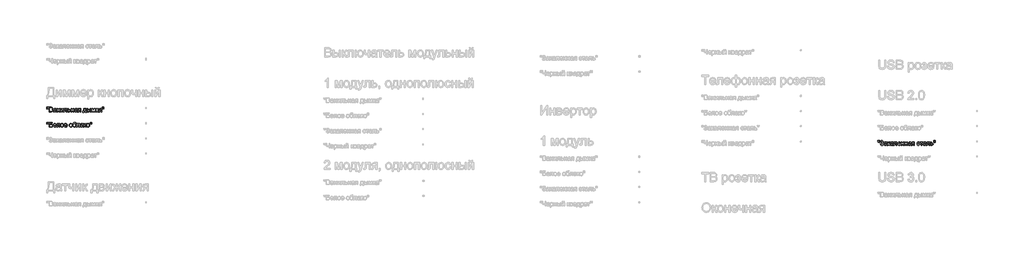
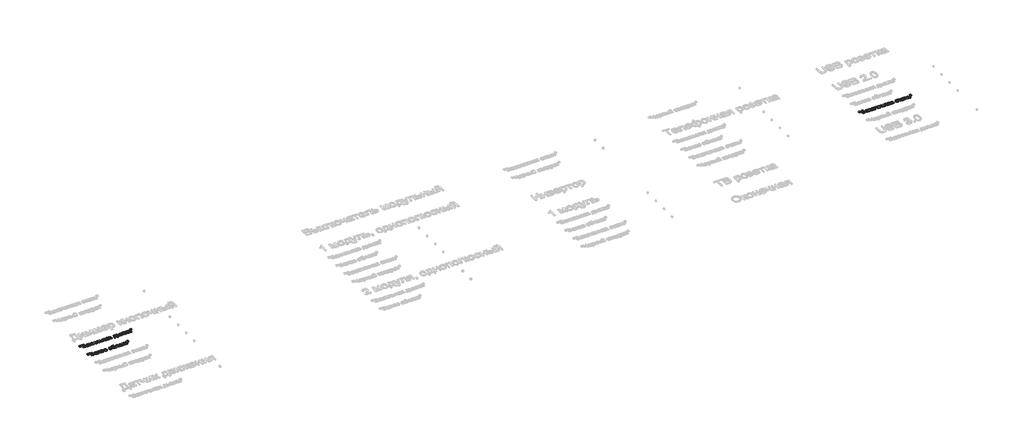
# One storey, part 33 of 168: 3 proxies.
"""IFC4 building model written with IfcOpenShell, lengths in millimetres."""

from ifc_helpers import new_model, si_unit, origin, origin_with_axes, place, context, project, spatial, polyline, outline, extrude, element, save

model = new_model("IFC4")

# Units and contexts
model_context = context("Model", 3, world=origin())
ifc_project = project(units=[si_unit("LENGTHUNIT", "METRE", prefix="MILLI")], contexts=[model_context])

# Site, building, storey
site = spatial("IfcSite", under=ifc_project)
building = spatial("IfcBuilding", under=site)
storey = spatial("IfcBuildingStorey", under=building, Name="Этаж 01", Elevation=0.0)

# Proxies
placement = place(None, origin())
element("IfcBuildingElementProxy", 1, Name="150", ObjectType="150", at=placement, inside=storey, context=model_context, shape_type="SweptSolid", body=[
    extrude(outline(polyline([(32880.1485789, -47369.2611657), (32875.550054, -47340.1616998), (32875.550054, -47315.108936), (32894.3856121, -47315.108936), (32894.3856121, -47340.1616998), (32890.2653338, -47369.2611657), (32880.1485789, -47369.2611657)])), origin_with_axes(), (0.0, 0.0, 1.0), 20.0),
    extrude(outline(polyline([(32917.7093306, -47369.2611657), (32913.2211703, -47340.1616998), (32913.2211703, -47315.108936), (32932.0567284, -47315.108936), (32932.0567284, -47340.1616998), (32927.6421445, -47369.2611657), (32917.7093306, -47369.2611657)])), origin_with_axes(), (0.0, 0.0, 1.0), 20.0),
    extrude(outline(polyline([(32957.9556209, -47465.7934012), (32957.9556209, -47315.108936), (33015.4555767, -47315.108936), (33043.6169435, -47319.541914), (33053.0807078, -47325.16591), (33060.2452096, -47333.1719419), (33066.2600803, -47352.4489585), (33061.2017028, -47370.0521119), (33045.9162059, -47383.3878343), (33056.5893823, -47388.9612465), (33064.4758526, -47397.4409265), (33069.3456905, -47408.2658542), (33070.9689698, -47420.8750096), (33066.5359918, -47441.1269134), (33055.5547142, -47455.5478876), (33039.1655713, -47463.1998331), (33015.0141183, -47465.7934012), (32957.9556209, -47465.7934012)]), holes=[polyline([(32976.791179, -47376.3245), (33011.1881456, -47376.3245), (33031.2745025, -47374.7058192), (33043.3594261, -47367.7344554), (33047.4245221, -47355.4655908), (33043.6353376, -47343.1783322), (33032.7828187, -47335.9126628), (33008.5761834, -47333.9444941), (32976.791179, -47333.9444941), (32976.791179, -47376.3245)]), polyline([(32976.791179, -47446.957843), (33015.4187885, -47446.957843), (33029.3983043, -47446.222079), (33041.2257105, -47442.1201948), (33049.061597, -47433.7508794), (33052.1334117, -47421.0589506), (33048.5281681, -47406.4172472), (33036.8479148, -47397.6800498), (33013.5793786, -47395.1600581), (32976.791179, -47395.1600581), (32976.791179, -47446.957843)])]), origin_with_axes(), (0.0, 0.0, 1.0), 20.0),
    extrude(outline(polyline([(33165.1467606, -47451.6667326), (33146.8814195, -47464.4322378), (33126.7030921, -47468.147846), (33110.9623412, -47465.9129628), (33099.3510657, -47459.2083135), (33092.1911624, -47449.0271793), (33089.804528, -47436.3628416), (33093.4097715, -47421.4636208), (33102.8827329, -47410.6478901), (33116.0713024, -47404.4674726), (33132.3684748, -47401.6347812), (33165.036396, -47395.1600581), (33165.1467606, -47390.9662034), (33163.8499765, -47382.5600998), (33159.9596244, -47377.060264), (33151.2592153, -47372.9767738), (33139.1375035, -47371.6156104), (33120.0812162, -47375.2392481), (33110.9945309, -47388.0967238), (33092.1589727, -47385.742279), (33100.3075589, -47367.3481793), (33116.7150959, -47356.5692368), (33141.5655247, -47352.7800523), (33164.3926025, -47356.1277784), (33177.2868664, -47364.533882), (33183.0626137, -47377.3177814), (33183.9823187, -47393.7988947), (33183.9823187, -47417.2329778), (33184.9388119, -47449.9560813), (33188.6912083, -47465.7934012), (33169.8556501, -47465.7934012), (33165.1467606, -47451.6667326)]), holes=[polyline([(33165.1467606, -47413.9956163), (33134.7597078, -47419.7713636), (33118.5545059, -47422.8247842), (33111.2152601, -47427.7911911), (33108.6400861, -47435.0384664), (33114.2502865, -47445.2287977), (33130.7130058, -47449.3122878), (33149.7692932, -47444.8057334), (33162.0565518, -47433.8980322), (33165.036396, -47419.3299052), (33165.1467606, -47413.9956163)])]), origin_with_axes(), (0.0, 0.0, 1.0), 20.0),
    extrude(outline(polyline([(33209.8812112, -47355.134497), (33228.7167693, -47355.134497), (33228.7167693, -47397.5145029), (33278.1601095, -47397.5145029), (33278.1601095, -47355.134497), (33296.9956676, -47355.134497), (33296.9956676, -47465.7934012), (33278.1601095, -47465.7934012), (33278.1601095, -47416.350061), (33228.7167693, -47416.350061), (33228.7167693, -47465.7934012), (33209.8812112, -47465.7934012), (33209.8812112, -47355.134497)])), origin_with_axes(), (0.0, 0.0, 1.0), 20.0),
    extrude(outline(polyline([(33325.2490049, -47355.134497), (33344.084563, -47355.134497), (33344.084563, -47439.5266267), (33390.364118, -47355.134497), (33414.7179061, -47355.134497), (33414.7179061, -47465.7934012), (33395.8823479, -47465.7934012), (33395.8823479, -47381.9163063), (33349.8970985, -47465.7934012), (33325.2490049, -47465.7934012), (33325.2490049, -47355.134497)])), origin_with_axes(), (0.0, 0.0, 1.0), 20.0),
    extrude(outline(polyline([(33452.3890224, -47355.134497), (33537.1490341, -47355.134497), (33537.1490341, -47465.6830366), (33518.3134759, -47465.6830366), (33518.3134759, -47373.9700552), (33471.2245806, -47373.9700552), (33471.2245806, -47426.7611215), (33469.9553877, -47451.1149096), (33462.9840239, -47461.3972113), (33446.5029105, -47465.7934012), (33431.1990195, -47464.836908), (33431.1990195, -47446.957843), (33439.6235172, -47446.957843), (33448.1399854, -47445.7990148), (33451.5428938, -47442.1201948), (33452.3890224, -47425.6942637), (33452.3890224, -47355.134497)])), origin_with_axes(), (0.0, 0.0, 1.0), 20.0),
    extrude(outline(polyline([(33565.4023713, -47355.134497), (33584.2379295, -47355.134497), (33584.2379295, -47395.1600581), (33605.9429672, -47395.1600581), (33624.7601312, -47397.5191014), (33638.6844648, -47404.5962313), (33647.2929034, -47415.8212307), (33650.162383, -47430.6238825), (33647.7205663, -47444.102159), (33640.395116, -47455.4743112), (33627.6985887, -47463.2136287), (33609.1435405, -47465.7934012), (33565.4023713, -47465.7934012), (33565.4023713, -47355.134497)]), holes=[polyline([(33584.2379295, -47446.957843), (33601.8226888, -47446.957843), (33624.539402, -47443.0031116), (33629.6299692, -47437.9401356), (33631.3268249, -47430.6606707), (33626.3052356, -47419.0723878), (33618.2348244, -47415.2648092), (33604.066769, -47413.9956163), (33584.2379295, -47413.9956163), (33584.2379295, -47446.957843)])]), origin_with_axes(), (0.0, 0.0, 1.0), 20.0),
    extrude(outline(polyline([(33673.7068307, -47355.134497), (33692.5423889, -47355.134497), (33692.5423889, -47397.5145029), (33741.985729, -47397.5145029), (33741.985729, -47355.134497), (33760.8212872, -47355.134497), (33760.8212872, -47465.7934012), (33741.985729, -47465.7934012), (33741.985729, -47416.350061), (33692.5423889, -47416.350061), (33692.5423889, -47465.7934012), (33673.7068307, -47465.7934012), (33673.7068307, -47355.134497)])), origin_with_axes(), (0.0, 0.0, 1.0), 20.0),
    extrude(outline(polyline([(33859.7079675, -47451.6667326), (33841.4426264, -47464.4322378), (33821.264299, -47468.147846), (33805.5235481, -47465.9129628), (33793.9122726, -47459.2083135), (33786.7523693, -47449.0271793), (33784.3657349, -47436.3628416), (33787.9709784, -47421.4636208), (33797.4439398, -47410.6478901), (33810.6325093, -47404.4674726), (33826.9296817, -47401.6347812), (33859.5976029, -47395.1600581), (33859.7079675, -47390.9662034), (33858.4111834, -47382.5600998), (33854.5208313, -47377.060264), (33845.8204221, -47372.9767738), (33833.6987104, -47371.6156104), (33814.6424231, -47375.2392481), (33805.5557378, -47388.0967238), (33786.7201796, -47385.742279), (33794.8687658, -47367.3481793), (33811.2763028, -47356.5692368), (33836.1267316, -47352.7800523), (33858.9538094, -47356.1277784), (33871.8480733, -47364.533882), (33877.6238206, -47377.3177814), (33878.5435256, -47393.7988947), (33878.5435256, -47417.2329778), (33879.5000188, -47449.9560813), (33883.2524152, -47465.7934012), (33864.416857, -47465.7934012), (33859.7079675, -47451.6667326)]), holes=[polyline([(33859.7079675, -47413.9956163), (33829.3209147, -47419.7713636), (33813.1157128, -47422.8247842), (33805.776467, -47427.7911911), (33803.201293, -47435.0384664), (33808.8114934, -47445.2287977), (33825.2742127, -47449.3122878), (33844.3305001, -47444.8057334), (33856.6177587, -47433.8980322), (33859.5976029, -47419.3299052), (33859.7079675, -47413.9956163)])]), origin_with_axes(), (0.0, 0.0, 1.0), 20.0),
    extrude(outline(polyline([(33989.2024298, -47355.134497), (33989.2024298, -47465.7934012), (33970.3668716, -47465.7934012), (33970.3668716, -47423.4133953), (33960.1029639, -47423.4133953), (33946.1234481, -47425.8046283), (33932.9900609, -47441.8810715), (33917.9804755, -47465.7934012), (33896.2018614, -47465.7934012), (33915.1109959, -47435.5535012), (33923.4619172, -47424.7009823), (33931.1506509, -47419.8817282), (33918.2747811, -47415.9361938), (33909.224884, -47408.4405981), (33903.872201, -47398.4709961), (33902.0879733, -47387.1034424), (33904.5251915, -47374.2091785), (33911.8368462, -47364.0004531), (33923.7654199, -47357.3509861), (33940.0533952, -47355.134497), (33989.2024298, -47355.134497)]), holes=[polyline([(33970.3668716, -47373.9700552), (33945.5348369, -47373.9700552), (33932.7095509, -47375.0599056), (33925.4300859, -47378.3294568), (33920.9235315, -47388.5381822), (33922.583599, -47395.7164796), (33927.5638015, -47400.6966821), (33951.0898551, -47404.5778372), (33970.3668716, -47404.5778372), (33970.3668716, -47373.9700552)])]), origin_with_axes(), (0.0, 0.0, 1.0), 20.0),
    extrude(outline(polyline([(34092.7979996, -47355.134497), (34163.4313427, -47355.134497), (34163.4313427, -47446.957843), (34177.5580113, -47446.957843), (34177.5580113, -47496.4011832), (34158.7224531, -47496.4011832), (34158.7224531, -47465.7934012), (34081.0257758, -47465.7934012), (34081.0257758, -47496.4011832), (34062.1902176, -47496.4011832), (34062.1902176, -47446.957843), (34073.9624415, -47446.957843), (34082.5202964, -47431.4930037), (34088.5121744, -47411.0341662), (34092.7979996, -47355.134497)]), holes=[polyline([(34109.279113, -47373.9700552), (34104.864529, -47416.8834899), (34095.1524444, -47446.957843), (34144.5957845, -47446.957843), (34144.5957845, -47373.9700552), (34109.279113, -47373.9700552)])]), origin_with_axes(), (0.0, 0.0, 1.0), 20.0),
    extrude(outline(polyline([(34302.3435841, -47355.134497), (34321.1791422, -47355.134497), (34321.1791422, -47465.7934012), (34302.3435841, -47465.7934012), (34302.3435841, -47355.134497)])), origin_with_axes(), (0.0, 0.0, 1.0), 20.0),
    extrude(outline(polyline([(34198.7480142, -47355.134497), (34217.5835724, -47355.134497), (34217.5835724, -47395.1600581), (34240.8705027, -47395.1600581), (34260.9982463, -47397.5191014), (34275.9112627, -47404.5962313), (34285.1405023, -47415.8212307), (34288.2169154, -47430.6238825), (34285.637143, -47444.102159), (34277.8978255, -47455.4743112), (34264.4931253, -47463.2136287), (34244.9172046, -47465.7934012), (34198.7480142, -47465.7934012), (34198.7480142, -47355.134497)]), holes=[polyline([(34217.5835724, -47446.957843), (34236.9341653, -47446.957843), (34261.9133528, -47443.0031116), (34267.5143562, -47437.9401356), (34269.3813573, -47430.6606707), (34263.8447333, -47419.0723878), (34254.9649816, -47415.2648092), (34239.3989747, -47413.9956163), (34217.5835724, -47413.9956163), (34217.5835724, -47446.957843)])]), origin_with_axes(), (0.0, 0.0, 1.0), 20.0),
    extrude(outline(polyline([(34349.4324794, -47355.134497), (34381.8428832, -47355.134497), (34406.8220707, -47443.7204815), (34433.7510327, -47355.134497), (34464.8002731, -47355.134497), (34464.8002731, -47465.7934012), (34445.964715, -47465.7934012), (34445.964715, -47376.692382), (34418.8886001, -47465.7934012), (34394.1669301, -47465.7934012), (34368.2680376, -47372.4249508), (34368.2680376, -47465.7934012), (34349.4324794, -47465.7934012), (34349.4324794, -47355.134497)])), origin_with_axes(), (0.0, 0.0, 1.0), 20.0),
    extrude(outline(polyline([(34493.0536104, -47355.134497), (34511.8891685, -47355.134497), (34511.8891685, -47402.2233924), (34524.5075209, -47398.8388781), (34534.845005, -47379.1204031), (34543.4350496, -47362.1058608), (34551.0134187, -47356.5692368), (34564.7905994, -47355.134497), (34568.395843, -47355.134497), (34568.395843, -47374.0804198), (34563.3190714, -47373.9700552), (34554.1220216, -47375.956618), (34547.6472984, -47388.3542412), (34540.0505352, -47401.7635399), (34529.4003515, -47408.3302335), (34541.2829399, -47415.6602823), (34552.9447992, -47431.102129), (34573.1047325, -47465.7934012), (34551.6940004, -47465.7934012), (34531.9387372, -47431.837893), (34522.0059234, -47417.4721011), (34511.8891685, -47413.9956163), (34511.8891685, -47465.7934012), (34493.0536104, -47465.7934012), (34493.0536104, -47355.134497)])), origin_with_axes(), (0.0, 0.0, 1.0), 20.0),
    extrude(outline(polyline([(34655.5102994, -47451.6667326), (34637.2449584, -47464.4322378), (34617.0666309, -47468.147846), (34601.3258801, -47465.9129628), (34589.7146046, -47459.2083135), (34582.5547013, -47449.0271793), (34580.1680668, -47436.3628416), (34583.7733104, -47421.4636208), (34593.2462717, -47410.6478901), (34606.4348413, -47404.4674726), (34622.7320137, -47401.6347812), (34655.3999348, -47395.1600581), (34655.5102994, -47390.9662034), (34654.2135154, -47382.5600998), (34650.3231633, -47377.060264), (34641.6227541, -47372.9767738), (34629.5010424, -47371.6156104), (34610.444755, -47375.2392481), (34601.3580697, -47388.0967238), (34582.5225116, -47385.742279), (34590.6710978, -47367.3481793), (34607.0786348, -47356.5692368), (34631.9290635, -47352.7800523), (34654.7561413, -47356.1277784), (34667.6504053, -47364.533882), (34673.4261526, -47377.3177814), (34674.3458576, -47393.7988947), (34674.3458576, -47417.2329778), (34675.3023508, -47449.9560813), (34679.0547471, -47465.7934012), (34660.219189, -47465.7934012), (34655.5102994, -47451.6667326)]), holes=[polyline([(34655.5102994, -47413.9956163), (34625.1232466, -47419.7713636), (34608.9180447, -47422.8247842), (34601.5787989, -47427.7911911), (34599.003625, -47435.0384664), (34604.6138254, -47445.2287977), (34621.0765447, -47449.3122878), (34640.132832, -47444.8057334), (34652.4200907, -47433.8980322), (34655.3999348, -47419.3299052), (34655.5102994, -47413.9956163)])]), origin_with_axes(), (0.0, 0.0, 1.0), 20.0),
    extrude(outline(polyline([(34700.1343854, -47369.2611657), (34695.5358605, -47340.1616998), (34695.5358605, -47315.108936), (34714.3714187, -47315.108936), (34714.3714187, -47340.1616998), (34710.2511403, -47369.2611657), (34700.1343854, -47369.2611657)])), origin_with_axes(), (0.0, 0.0, 1.0), 20.0),
    extrude(outline(polyline([(34737.6951372, -47369.2611657), (34733.2069768, -47340.1616998), (34733.2069768, -47315.108936), (34752.042535, -47315.108936), (34752.042535, -47340.1616998), (34747.627951, -47369.2611657), (34737.6951372, -47369.2611657)])), origin_with_axes(), (0.0, 0.0, 1.0), 20.0),
])
element("IfcBuildingElementProxy", 2, Name="150", ObjectType="150", at=placement, inside=storey, context=model_context, shape_type="SweptSolid", body=[
    extrude(outline(polyline([(32880.1485789, -47869.2611657), (32875.550054, -47840.1616998), (32875.550054, -47815.108936), (32894.3856121, -47815.108936), (32894.3856121, -47840.1616998), (32890.2653338, -47869.2611657), (32880.1485789, -47869.2611657)])), origin_with_axes(), (0.0, 0.0, 1.0), 20.0),
    extrude(outline(polyline([(32917.7093306, -47869.2611657), (32913.2211703, -47840.1616998), (32913.2211703, -47815.108936), (32932.0567284, -47815.108936), (32932.0567284, -47840.1616998), (32927.6421445, -47869.2611657), (32917.7093306, -47869.2611657)])), origin_with_axes(), (0.0, 0.0, 1.0), 20.0),
    extrude(outline(polyline([(32957.9556209, -47815.108936), (33052.1334117, -47815.108936), (33052.1334117, -47833.9444941), (32976.791179, -47833.9444941), (32976.791179, -47878.6789447), (33012.0710624, -47878.6789447), (33043.157091, -47882.5049175), (33053.5589544, -47888.0323445), (33061.6615553, -47896.9626799), (33066.8762826, -47908.4589922), (33068.614525, -47921.68435), (33063.6665122, -47943.1502644), (33048.8960501, -47959.4658309), (33035.6247071, -47964.2115086), (33015.4555767, -47965.7934012), (32957.9556209, -47965.7934012), (32957.9556209, -47815.108936)]), holes=[polyline([(32976.791179, -47946.957843), (33017.1478339, -47946.957843), (33031.4124583, -47945.4035416), (33041.6119866, -47940.7406373), (33047.7372218, -47932.9691302), (33049.7789669, -47922.0890202), (33045.1068655, -47907.3369522), (33032.102237, -47899.4642775), (33003.7201411, -47897.5145029), (32976.791179, -47897.5145029), (32976.791179, -47946.957843)])]), origin_with_axes(), (0.0, 0.0, 1.0), 20.0),
    extrude(outline(polyline([(33169.6349209, -47932.8311744), (33188.1025971, -47935.1856192), (33181.4485315, -47949.1007557), (33170.8305374, -47959.5026191), (33156.4877381, -47965.9865392), (33138.6592569, -47968.147846), (33116.5587461, -47964.4184422), (33099.5534008, -47953.2302311), (33088.710079, -47935.3097794), (33085.0956384, -47911.3836541), (33088.7468672, -47886.652787), (33099.7005536, -47868.1575197), (33116.4759726, -47856.6244191), (33137.5923991, -47852.7800523), (33158.0512366, -47856.6152221), (33174.3989927, -47868.1207315), (33185.1181544, -47886.5792106), (33188.6912083, -47911.2732895), (33188.5808437, -47916.350061), (33103.9311966, -47916.350061), (33107.1915508, -47930.4491385), (33114.7653213, -47940.8142137), (33125.6960151, -47947.1877693), (33139.0271389, -47949.3122878), (33157.4948151, -47945.3759505), (33169.6349209, -47932.8311744)]), holes=[polyline([(33103.9311966, -47897.5145029), (33169.8556501, -47897.5145029), (33167.3080673, -47887.5632949), (33162.3140692, -47880.4447783), (33151.3327917, -47873.8229024), (33137.5188227, -47871.6156104), (33124.8222954, -47873.3768455), (33114.3238629, -47878.6605506), (33107.0260039, -47886.8965088), (33103.9311966, -47897.5145029)])]), origin_with_axes(), (0.0, 0.0, 1.0), 20.0),
    extrude(outline(polyline([(33216.9445455, -47855.134497), (33301.7045572, -47855.134497), (33301.7045572, -47965.6830366), (33282.868999, -47965.6830366), (33282.868999, -47873.9700552), (33235.7801036, -47873.9700552), (33235.7801036, -47926.7611215), (33234.5109108, -47951.1149096), (33227.539547, -47961.3972113), (33211.0584336, -47965.7934012), (33195.7545426, -47964.836908), (33195.7545426, -47946.957843), (33204.1790403, -47946.957843), (33212.6955084, -47945.7990148), (33216.0984169, -47942.1201948), (33216.9445455, -47925.6942637), (33216.9445455, -47855.134497)])), origin_with_axes(), (0.0, 0.0, 1.0), 20.0),
    extrude(outline(polyline([(33325.2490049, -47910.4639491), (33329.323298, -47883.7833074), (33341.5461773, -47865.0305227), (33356.6477332, -47855.8426699), (33374.7291332, -47852.7800523), (33394.516586, -47856.509456), (33410.3217163, -47867.6976672), (33420.6821929, -47885.461769), (33424.1356852, -47908.9188447), (33422.6089749, -47927.9475409), (33418.0288441, -47942.4328945), (33410.5286499, -47953.2808148), (33400.2417496, -47961.3972113), (33388.0234688, -47966.4601873), (33374.7291332, -47968.147846), (33354.7025571, -47964.4322378), (33338.915821, -47953.2854134), (33328.6657089, -47935.148831), (33325.2490049, -47910.4639491)]), holes=[polyline([(33344.084563, -47910.4271609), (33346.2642638, -47927.4738929), (33352.8033663, -47939.6185972), (33362.6442097, -47946.8888652), (33374.7291332, -47949.3122878), (33386.7588745, -47946.8750696), (33396.5813237, -47939.5634149), (33403.1204262, -47927.2577622), (33405.300127, -47909.8385497), (33403.1066306, -47893.2884585), (33396.5261414, -47881.309301), (33386.6898966, -47874.0390331), (33374.7291332, -47871.6156104), (33362.6442097, -47874.029836), (33352.8033663, -47881.2725128), (33346.2642638, -47893.389626), (33344.084563, -47910.4271609)])]), origin_with_axes(), (0.0, 0.0, 1.0), 20.0),
    extrude(outline(polyline([(33522.8016363, -47932.8311744), (33541.2693124, -47935.1856192), (33534.6152469, -47949.1007557), (33523.9972528, -47959.5026191), (33509.6544535, -47965.9865392), (33491.8259723, -47968.147846), (33469.7254614, -47964.4184422), (33452.7201162, -47953.2302311), (33441.8767944, -47935.3097794), (33438.2623538, -47911.3836541), (33441.9135826, -47886.652787), (33452.867269, -47868.1575197), (33469.642688, -47856.6244191), (33490.7591145, -47852.7800523), (33511.217952, -47856.6152221), (33527.5657081, -47868.1207315), (33538.2848698, -47886.5792106), (33541.8579236, -47911.2732895), (33541.747559, -47916.350061), (33457.0979119, -47916.350061), (33460.3582661, -47930.4491385), (33467.9320367, -47940.8142137), (33478.8627305, -47947.1877693), (33492.1938543, -47949.3122878), (33510.6615304, -47945.3759505), (33522.8016363, -47932.8311744)]), holes=[polyline([(33457.0979119, -47897.5145029), (33523.0223655, -47897.5145029), (33520.4747827, -47887.5632949), (33515.4807846, -47880.4447783), (33504.499507, -47873.8229024), (33490.6855381, -47871.6156104), (33477.9890107, -47873.3768455), (33467.4905783, -47878.6605506), (33460.1927192, -47886.8965088), (33457.0979119, -47897.5145029)])]), origin_with_axes(), (0.0, 0.0, 1.0), 20.0),
    extrude(outline(polyline([(33614.8457115, -47910.4639491), (33618.9200046, -47883.7833074), (33631.1428839, -47865.0305227), (33646.2444398, -47855.8426699), (33664.3258398, -47852.7800523), (33684.1132926, -47856.509456), (33699.9184229, -47867.6976672), (33710.2788995, -47885.461769), (33713.7323918, -47908.9188447), (33712.2056815, -47927.9475409), (33707.6255507, -47942.4328945), (33700.1253565, -47953.2808148), (33689.8384562, -47961.3972113), (33677.6201754, -47966.4601873), (33664.3258398, -47968.147846), (33644.2992637, -47964.4322378), (33628.5125276, -47953.2854134), (33618.2624155, -47935.148831), (33614.8457115, -47910.4639491)]), holes=[polyline([(33633.6812696, -47910.4271609), (33635.8609704, -47927.4738929), (33642.4000729, -47939.6185972), (33652.2409163, -47946.8888652), (33664.3258398, -47949.3122878), (33676.3555811, -47946.8750696), (33686.1780303, -47939.5634149), (33692.7171328, -47927.2577622), (33694.8968336, -47909.8385497), (33692.7033372, -47893.2884585), (33686.122848, -47881.309301), (33676.2866032, -47874.0390331), (33664.3258398, -47871.6156104), (33652.2409163, -47874.029836), (33642.4000729, -47881.2725128), (33635.8609704, -47893.389626), (33633.6812696, -47910.4271609)])]), origin_with_axes(), (0.0, 0.0, 1.0), 20.0),
    extrude(outline(polyline([(33812.6190721, -47812.7544912), (33829.1001855, -47812.7544912), (33824.2441431, -47827.4513769), (33814.6424231, -47832.7672717), (33791.576222, -47833.9444941), (33760.5085875, -47838.2855017), (33753.3808738, -47843.9324903), (33748.5892108, -47852.1914411), (33744.560903, -47876.8027466), (33760.8764695, -47858.7765288), (33770.7954878, -47854.2791714), (33781.9009255, -47852.7800523), (33801.4998388, -47856.5922294), (33817.401538, -47868.028761), (33827.9413572, -47885.9676068), (33831.4546302, -47909.2867267), (33829.7117893, -47927.2669592), (33824.4832664, -47941.6971305), (33807.9469707, -47961.2500585), (33796.6529935, -47966.4233991), (33781.9009255, -47968.147846), (33764.9001788, -47965.9267584), (33752.1576662, -47959.2634958), (33742.7812738, -47949.1375439), (33735.8788879, -47936.5283885), (33731.6298508, -47917.541079), (33730.2135052, -47888.2806648), (33733.786559, -47852.1408573), (33744.5057207, -47830.1001273), (33762.6377045, -47818.8567338), (33788.449225, -47815.108936), (33809.4184987, -47814.6858717), (33812.6190721, -47812.7544912)]), holes=[polyline([(33812.6190721, -47908.6981155), (33810.577327, -47893.8770697), (33804.4520918, -47882.0082768), (33794.6112484, -47874.213777), (33781.4226789, -47871.6156104), (33767.6730893, -47874.3609298), (33757.473561, -47882.596888), (33751.1551877, -47895.422174), (33749.0490633, -47911.9354771), (33751.3759169, -47927.9429424), (33758.3564778, -47939.6921736), (33768.7491442, -47946.9072593), (33781.3123143, -47949.3122878), (33793.9398638, -47946.5301802), (33803.937057, -47938.1838575), (33810.4485683, -47925.2482068), (33812.6190721, -47908.6981155)])]), origin_with_axes(), (0.0, 0.0, 1.0), 20.0),
    extrude(outline(polyline([(33864.416857, -47855.134497), (33949.1768687, -47855.134497), (33949.1768687, -47965.6830366), (33930.3413105, -47965.6830366), (33930.3413105, -47873.9700552), (33883.2524152, -47873.9700552), (33883.2524152, -47926.7611215), (33881.9832223, -47951.1149096), (33875.0118585, -47961.3972113), (33858.5307451, -47965.7934012), (33843.2268541, -47964.836908), (33843.2268541, -47946.957843), (33851.6513518, -47946.957843), (33860.16782, -47945.7990148), (33863.5707284, -47942.1201948), (33864.416857, -47925.6942637), (33864.416857, -47855.134497)])), origin_with_axes(), (0.0, 0.0, 1.0), 20.0),
    extrude(outline(polyline([(34048.063549, -47951.6667326), (34029.7982079, -47964.4322378), (34009.6198805, -47968.147846), (33993.8791296, -47965.9129628), (33982.2678542, -47959.2083135), (33975.1079508, -47949.0271793), (33972.7213164, -47936.3628416), (33976.3265599, -47921.4636208), (33985.7995213, -47910.6478901), (33998.9880908, -47904.4674726), (34015.2852632, -47901.6347812), (34047.9531844, -47895.1600581), (34048.063549, -47890.9662034), (34046.766765, -47882.5600998), (34042.8764129, -47877.060264), (34034.1760037, -47872.9767738), (34022.0542919, -47871.6156104), (34002.9980046, -47875.2392481), (33993.9113193, -47888.0967238), (33975.0757612, -47885.742279), (33983.2243473, -47867.3481793), (33999.6318843, -47856.5692368), (34024.4823131, -47852.7800523), (34047.3093909, -47856.1277784), (34060.2036548, -47864.533882), (34065.9794022, -47877.3177814), (34066.8991071, -47893.7988947), (34066.8991071, -47917.2329778), (34067.8556003, -47949.9560813), (34071.6079967, -47965.7934012), (34052.7724385, -47965.7934012), (34048.063549, -47951.6667326)]), holes=[polyline([(34048.063549, -47913.9956163), (34017.6764962, -47919.7713636), (34001.4712943, -47922.8247842), (33994.1320485, -47927.7911911), (33991.5568745, -47935.0384664), (33997.167075, -47945.2287977), (34013.6297942, -47949.3122878), (34032.6860816, -47944.8057334), (34044.9733402, -47933.8980322), (34047.9531844, -47919.3299052), (34048.063549, -47913.9956163)])]), origin_with_axes(), (0.0, 0.0, 1.0), 20.0),
    extrude(outline(polyline([(34092.7979996, -47855.134497), (34111.6335578, -47855.134497), (34111.6335578, -47902.2233924), (34124.2519102, -47898.8388781), (34134.5893943, -47879.1204031), (34143.1794388, -47862.1058608), (34150.7578079, -47856.5692368), (34164.5349887, -47855.134497), (34168.1402322, -47855.134497), (34168.1402322, -47874.0804198), (34163.0634607, -47873.9700552), (34153.8664108, -47875.956618), (34147.3916877, -47888.3542412), (34139.7949245, -47901.7635399), (34129.1447407, -47908.3302335), (34141.0273292, -47915.6602823), (34152.6891884, -47931.102129), (34172.8491218, -47965.7934012), (34151.4383896, -47965.7934012), (34131.6831265, -47931.837893), (34121.7503126, -47917.4721011), (34111.6335578, -47913.9956163), (34111.6335578, -47965.7934012), (34092.7979996, -47965.7934012), (34092.7979996, -47855.134497)])), origin_with_axes(), (0.0, 0.0, 1.0), 20.0),
    extrude(outline(polyline([(34179.9124561, -47910.4639491), (34183.9867492, -47883.7833074), (34196.2096285, -47865.0305227), (34211.3111844, -47855.8426699), (34229.3925844, -47852.7800523), (34249.1800372, -47856.509456), (34264.9851674, -47867.6976672), (34275.3456441, -47885.461769), (34278.7991364, -47908.9188447), (34277.2724261, -47927.9475409), (34272.6922952, -47942.4328945), (34265.1921011, -47953.2808148), (34254.9052008, -47961.3972113), (34242.68692, -47966.4601873), (34229.3925844, -47968.147846), (34209.3660083, -47964.4322378), (34193.5792722, -47953.2854134), (34183.3291601, -47935.148831), (34179.9124561, -47910.4639491)]), holes=[polyline([(34198.7480142, -47910.4271609), (34200.927715, -47927.4738929), (34207.4668175, -47939.6185972), (34217.3076609, -47946.8888652), (34229.3925844, -47949.3122878), (34241.4223257, -47946.8750696), (34251.2447749, -47939.5634149), (34257.7838774, -47927.2577622), (34259.9635782, -47909.8385497), (34257.7700818, -47893.2884585), (34251.1895926, -47881.309301), (34241.3533478, -47874.0390331), (34229.3925844, -47871.6156104), (34217.3076609, -47874.029836), (34207.4668175, -47881.2725128), (34200.927715, -47893.389626), (34198.7480142, -47910.4271609)])]), origin_with_axes(), (0.0, 0.0, 1.0), 20.0),
    extrude(outline(polyline([(34299.8787747, -47869.2611657), (34295.2802498, -47840.1616998), (34295.2802498, -47815.108936), (34314.1158079, -47815.108936), (34314.1158079, -47840.1616998), (34309.9955296, -47869.2611657), (34299.8787747, -47869.2611657)])), origin_with_axes(), (0.0, 0.0, 1.0), 20.0),
    extrude(outline(polyline([(34337.4395264, -47869.2611657), (34332.9513661, -47840.1616998), (34332.9513661, -47815.108936), (34351.7869242, -47815.108936), (34351.7869242, -47840.1616998), (34347.3723403, -47869.2611657), (34337.4395264, -47869.2611657)])), origin_with_axes(), (0.0, 0.0, 1.0), 20.0),
])
element("IfcBuildingElementProxy", 3, Name="150", ObjectType="150", at=placement, inside=storey, context=model_context, shape_type="SweptSolid", body=[
    extrude(outline(polyline([(60180.1485789, -48470.3300622), (60175.550054, -48441.2305964), (60175.550054, -48416.1778325), (60194.3856121, -48416.1778325), (60194.3856121, -48441.2305964), (60190.2653338, -48470.3300622), (60180.1485789, -48470.3300622)])), origin_with_axes(), (0.0, 0.0, 1.0), 20.0),
    extrude(outline(polyline([(60217.7093306, -48470.3300622), (60213.2211703, -48441.2305964), (60213.2211703, -48416.1778325), (60232.0567284, -48416.1778325), (60232.0567284, -48441.2305964), (60227.6421445, -48470.3300622), (60217.7093306, -48470.3300622)])), origin_with_axes(), (0.0, 0.0, 1.0), 20.0),
    extrude(outline(polyline([(60250.8922866, -48524.4822919), (60269.7278447, -48519.7734024), (60281.2977335, -48540.172459), (60292.2284273, -48547.829003), (60306.2217387, -48550.3811843), (60320.398991, -48548.4635995), (60331.2193202, -48542.7108448), (60338.0757209, -48534.2449603), (60340.3611878, -48524.1879863), (60337.8641888, -48513.6527657), (60330.3731916, -48505.517975), (60318.5779752, -48500.3170433), (60303.1683181, -48498.5833994), (60293.2722924, -48498.5833994), (60293.2722924, -48479.7478413), (60314.591054, -48478.221131), (60327.6324708, -48470.4220327), (60333.2978535, -48456.1666054), (60331.4124583, -48447.2960508), (60325.7562726, -48439.6670979), (60316.8811195, -48434.4109839), (60305.3388219, -48432.6589459), (60286.1169876, -48438.0484171), (60275.117316, -48452.3406326), (60272.0822895, -48465.6211727), (60253.2467313, -48460.9122831), (60259.0983543, -48440.3108914), (60269.7002536, -48425.5956116), (60285.0524291, -48416.7664437), (60305.1548809, -48413.8233877), (60324.5468605, -48416.8814068), (60339.4598769, -48426.0554641), (60348.965028, -48439.3222085), (60352.1334117, -48454.6582892), (60347.2037929, -48473.3007093), (60332.4149367, -48487.2158458), (60342.8903765, -48492.0396984), (60351.5080123, -48500.1836861), (60357.2745625, -48510.948833), (60359.196746, -48523.6361633), (60355.508729, -48541.4738415), (60344.444678, -48556.1385376), (60327.2921799, -48565.9471913), (60305.3388219, -48569.2167425), (60286.2365493, -48566.4208393), (60270.7947025, -48558.0331298), (60259.0132816, -48544.053614), (60250.8922866, -48524.4822919)])), origin_with_axes(), (0.0, 0.0, 1.0), 20.0),
    extrude(outline(polyline([(60453.3745367, -48552.7356291), (60435.1091957, -48565.5011344), (60414.9308682, -48569.2167425), (60399.1901174, -48566.9818594), (60387.5788419, -48560.27721), (60380.4189386, -48550.0960758), (60378.0323041, -48537.4317381), (60381.6375477, -48522.5325173), (60391.110509, -48511.7167867), (60404.2990786, -48505.5363691), (60420.596251, -48502.7036778), (60453.2641721, -48496.2289547), (60453.3745367, -48492.0350999), (60452.0777527, -48483.6289963), (60448.1874006, -48478.1291605), (60439.4869914, -48474.0456704), (60427.3652797, -48472.684507), (60408.3089923, -48476.3081446), (60399.222307, -48489.1656204), (60380.3867489, -48486.8111756), (60388.5353351, -48468.4170758), (60404.9428721, -48457.6381334), (60429.7933008, -48453.8489488), (60452.6203786, -48457.196675), (60465.5146426, -48465.6027786), (60471.2903899, -48478.3866779), (60472.2100949, -48494.8677913), (60472.2100949, -48518.3018744), (60473.1665881, -48551.0249778), (60476.9189844, -48566.8622977), (60458.0834263, -48566.8622977), (60453.3745367, -48552.7356291)]), holes=[polyline([(60453.3745367, -48515.0645128), (60422.9874839, -48520.8402601), (60406.782282, -48523.8936807), (60399.4430362, -48528.8600876), (60396.8678623, -48536.1073629), (60402.4780627, -48546.2976942), (60418.940782, -48550.3811843), (60437.9970693, -48545.8746299), (60450.284328, -48534.9669288), (60453.2641721, -48520.3988017), (60453.3745367, -48515.0645128)])]), origin_with_axes(), (0.0, 0.0, 1.0), 20.0),
    extrude(outline(polyline([(60498.1089873, -48456.2033936), (60516.9445455, -48456.2033936), (60516.9445455, -48503.292289), (60529.5628979, -48499.9077746), (60539.900382, -48480.1892997), (60548.4904266, -48463.1747574), (60556.0687957, -48457.6381334), (60569.8459764, -48456.2033936), (60573.4512199, -48456.2033936), (60573.4512199, -48475.1493163), (60568.3744484, -48475.0389517), (60559.1773985, -48477.0255145), (60552.7026754, -48489.4231377), (60545.1059122, -48502.8324365), (60534.4557285, -48509.3991301), (60546.3383169, -48516.7291788), (60558.0001762, -48532.1710256), (60578.1601095, -48566.8622977), (60556.7493774, -48566.8622977), (60536.9941142, -48532.9067896), (60527.0613004, -48518.5409977), (60516.9445455, -48515.0645128), (60516.9445455, -48566.8622977), (60498.1089873, -48566.8622977), (60498.1089873, -48456.2033936)])), origin_with_axes(), (0.0, 0.0, 1.0), 20.0),
    extrude(outline(polyline([(60660.5656764, -48552.7356291), (60642.3003353, -48565.5011344), (60622.1220079, -48569.2167425), (60606.381257, -48566.9818594), (60594.7699816, -48560.27721), (60587.6100782, -48550.0960758), (60585.2234438, -48537.4317381), (60588.8286873, -48522.5325173), (60598.3016487, -48511.7167867), (60611.4902183, -48505.5363691), (60627.7873906, -48502.7036778), (60660.4553118, -48496.2289547), (60660.5656764, -48492.0350999), (60659.2688924, -48483.6289963), (60655.3785403, -48478.1291605), (60646.6781311, -48474.0456704), (60634.5564193, -48472.684507), (60615.500132, -48476.3081446), (60606.4134467, -48489.1656204), (60587.5778886, -48486.8111756), (60595.7264748, -48468.4170758), (60612.1340117, -48457.6381334), (60636.9844405, -48453.8489488), (60659.8115183, -48457.196675), (60672.7057822, -48465.6027786), (60678.4815296, -48478.3866779), (60679.4012346, -48494.8677913), (60679.4012346, -48518.3018744), (60680.3577277, -48551.0249778), (60684.1101241, -48566.8622977), (60665.2745659, -48566.8622977), (60660.5656764, -48552.7356291)]), holes=[polyline([(60660.5656764, -48515.0645128), (60630.1786236, -48520.8402601), (60613.9734217, -48523.8936807), (60606.6341759, -48528.8600876), (60604.0590019, -48536.1073629), (60609.6692024, -48546.2976942), (60626.1319217, -48550.3811843), (60645.188209, -48545.8746299), (60657.4754676, -48534.9669288), (60660.4553118, -48520.3988017), (60660.5656764, -48515.0645128)])]), origin_with_axes(), (0.0, 0.0, 1.0), 20.0),
    extrude(outline(polyline([(60714.7179061, -48456.2033936), (60799.4779178, -48456.2033936), (60799.4779178, -48566.7519331), (60780.6423596, -48566.7519331), (60780.6423596, -48475.0389517), (60733.5534643, -48475.0389517), (60733.5534643, -48527.830018), (60732.2842714, -48552.1838061), (60725.3129076, -48562.4661079), (60708.8317942, -48566.8622977), (60693.5279032, -48565.9058045), (60693.5279032, -48548.0267396), (60701.9524009, -48548.0267396), (60710.4688691, -48546.8679113), (60713.8717775, -48543.1890913), (60714.7179061, -48526.7631603), (60714.7179061, -48456.2033936)])), origin_with_axes(), (0.0, 0.0, 1.0), 20.0),
    extrude(outline(polyline([(60905.2072032, -48533.900071), (60923.6748794, -48536.2545157), (60917.0208138, -48550.1696522), (60906.4028197, -48560.5715156), (60892.0600204, -48567.0554358), (60874.2315392, -48569.2167425), (60852.1310283, -48565.4873388), (60835.1256831, -48554.2991276), (60824.2823613, -48536.3786759), (60820.6679207, -48512.4525506), (60824.3191495, -48487.7216835), (60835.2728359, -48469.2264162), (60852.0482549, -48457.6933157), (60873.1646814, -48453.8489488), (60893.6235189, -48457.6841186), (60909.971275, -48469.189628), (60920.6904367, -48487.6481071), (60924.2634906, -48512.342186), (60924.153126, -48517.4189576), (60839.5034789, -48517.4189576), (60842.763833, -48531.518035), (60850.3376036, -48541.8831103), (60861.2682974, -48548.2566658), (60874.5994212, -48550.3811843), (60893.0670974, -48546.444847), (60905.2072032, -48533.900071)]), holes=[polyline([(60839.5034789, -48498.5833994), (60905.4279324, -48498.5833994), (60902.8803496, -48488.6321915), (60897.8863515, -48481.5136749), (60886.9050739, -48474.8917989), (60873.091105, -48472.684507), (60860.3945777, -48474.445742), (60849.8961452, -48479.7294472), (60842.5982861, -48487.9654053), (60839.5034789, -48498.5833994)])]), origin_with_axes(), (0.0, 0.0, 1.0), 20.0),
    extrude(outline(polyline([(60943.0990487, -48456.2033936), (60961.9346069, -48456.2033936), (60961.9346069, -48498.5833994), (61011.377947, -48498.5833994), (61011.377947, -48456.2033936), (61030.2135052, -48456.2033936), (61030.2135052, -48566.8622977), (61011.377947, -48566.8622977), (61011.377947, -48517.4189576), (60961.9346069, -48517.4189576), (60961.9346069, -48566.8622977), (60943.0990487, -48566.8622977), (60943.0990487, -48456.2033936)])), origin_with_axes(), (0.0, 0.0, 1.0), 20.0),
    extrude(outline(polyline([(61058.4668424, -48456.2033936), (61077.3024005, -48456.2033936), (61077.3024005, -48498.5833994), (61126.7457407, -48498.5833994), (61126.7457407, -48456.2033936), (61145.5812988, -48456.2033936), (61145.5812988, -48566.8622977), (61126.7457407, -48566.8622977), (61126.7457407, -48517.4189576), (61077.3024005, -48517.4189576), (61077.3024005, -48566.8622977), (61058.4668424, -48566.8622977), (61058.4668424, -48456.2033936)])), origin_with_axes(), (0.0, 0.0, 1.0), 20.0),
    extrude(outline(polyline([(61244.4679792, -48552.7356291), (61226.2026381, -48565.5011344), (61206.0243107, -48569.2167425), (61190.2835598, -48566.9818594), (61178.6722843, -48560.27721), (61171.512381, -48550.0960758), (61169.1257465, -48537.4317381), (61172.7309901, -48522.5325173), (61182.2039515, -48511.7167867), (61195.392521, -48505.5363691), (61211.6896934, -48502.7036778), (61244.3576146, -48496.2289547), (61244.4679792, -48492.0350999), (61243.1711951, -48483.6289963), (61239.280843, -48478.1291605), (61230.5804338, -48474.0456704), (61218.4587221, -48472.684507), (61199.4024347, -48476.3081446), (61190.3157495, -48489.1656204), (61171.4801913, -48486.8111756), (61179.6287775, -48468.4170758), (61196.0363145, -48457.6381334), (61220.8867433, -48453.8489488), (61243.7138211, -48457.196675), (61256.608085, -48465.6027786), (61262.3838323, -48478.3866779), (61263.3035373, -48494.8677913), (61263.3035373, -48518.3018744), (61264.2600305, -48551.0249778), (61268.0124268, -48566.8622977), (61249.1768687, -48566.8622977), (61244.4679792, -48552.7356291)]), holes=[polyline([(61244.4679792, -48515.0645128), (61214.0809264, -48520.8402601), (61197.8757245, -48523.8936807), (61190.5364787, -48528.8600876), (61187.9613047, -48536.1073629), (61193.5715051, -48546.2976942), (61210.0342244, -48550.3811843), (61229.0905118, -48545.8746299), (61241.3777704, -48534.9669288), (61244.3576146, -48520.3988017), (61244.4679792, -48515.0645128)])]), origin_with_axes(), (0.0, 0.0, 1.0), 20.0),
    extrude(outline(polyline([(61373.9624415, -48456.2033936), (61373.9624415, -48566.8622977), (61355.1268833, -48566.8622977), (61355.1268833, -48524.4822919), (61344.8629756, -48524.4822919), (61330.8834598, -48526.8735249), (61317.7500726, -48542.949968), (61302.7404872, -48566.8622977), (61280.9618731, -48566.8622977), (61299.8710076, -48536.6223977), (61308.2219289, -48525.7698789), (61315.9106626, -48520.9506247), (61303.0347928, -48517.0050903), (61293.9848957, -48509.5094947), (61288.6322127, -48499.5398926), (61286.847985, -48488.172339), (61289.2852032, -48475.278075), (61296.5968579, -48465.0693497), (61308.5254316, -48458.4198826), (61324.8134069, -48456.2033936), (61373.9624415, -48456.2033936)]), holes=[polyline([(61355.1268833, -48475.0389517), (61330.2948486, -48475.0389517), (61317.4695626, -48476.1288021), (61310.1900976, -48479.3983534), (61305.6835431, -48489.6070787), (61307.3436107, -48496.7853762), (61312.3238132, -48501.7655787), (61335.8498668, -48505.6467337), (61355.1268833, -48505.6467337), (61355.1268833, -48475.0389517)])]), origin_with_axes(), (0.0, 0.0, 1.0), 20.0),
    extrude(outline(polyline([(61531.710241, -48526.8367367), (61550.5457991, -48529.1911814), (61545.2942837, -48545.9436078), (61535.4258491, -48558.6033469), (61521.8693976, -48566.5633936), (61505.5538311, -48569.2167425), (61485.518058, -48565.5149299), (61469.8508835, -48554.4094922), (61459.7387272, -48536.387873), (61456.3680084, -48511.9375159), (61457.8073467, -48495.1758924), (61462.1253616, -48480.6491522), (61469.391031, -48468.918315), (61479.6733328, -48460.5444011), (61491.974387, -48455.5228119), (61505.2963137, -48453.8489488), (61521.2118085, -48456.1482113), (61533.9359271, -48463.0459987), (61543.0639991, -48474.174429), (61548.1913544, -48489.1656204), (61529.3557962, -48491.5200651), (61520.6185988, -48477.4117906), (61505.4434665, -48472.684507), (61493.271171, -48475.0113606), (61483.6096701, -48481.9919214), (61477.3050924, -48494.0032686), (61475.2035665, -48511.4224811), (61477.2591072, -48529.0762183), (61483.4257291, -48541.1289522), (61492.9124861, -48548.0681263), (61504.9284317, -48550.3811843), (61514.6819031, -48548.9372475), (61522.678738, -48544.605437), (61528.4958721, -48537.2753883), (61531.710241, -48526.8367367)])), origin_with_axes(), (0.0, 0.0, 1.0), 20.0),
    extrude(outline(polyline([(61557.6091334, -48456.2033936), (61647.0780347, -48456.2033936), (61647.0780347, -48475.0389517), (61611.7613631, -48475.0389517), (61611.7613631, -48566.8622977), (61592.925805, -48566.8622977), (61592.925805, -48475.0389517), (61557.6091334, -48475.0389517), (61557.6091334, -48456.2033936)])), origin_with_axes(), (0.0, 0.0, 1.0), 20.0),
    extrude(outline(polyline([(61734.1924911, -48552.7356291), (61715.9271501, -48565.5011344), (61695.7488226, -48569.2167425), (61680.0080718, -48566.9818594), (61668.3967963, -48560.27721), (61661.236893, -48550.0960758), (61658.8502585, -48537.4317381), (61662.4555021, -48522.5325173), (61671.9284634, -48511.7167867), (61685.117033, -48505.5363691), (61701.4142054, -48502.7036778), (61734.0821265, -48496.2289547), (61734.1924911, -48492.0350999), (61732.8957071, -48483.6289963), (61729.005355, -48478.1291605), (61720.3049458, -48474.0456704), (61708.1832341, -48472.684507), (61689.1269467, -48476.3081446), (61680.0402614, -48489.1656204), (61661.2047033, -48486.8111756), (61669.3532895, -48468.4170758), (61685.7608265, -48457.6381334), (61710.6112552, -48453.8489488), (61733.438333, -48457.196675), (61746.332597, -48465.6027786), (61752.1083443, -48478.3866779), (61753.0280493, -48494.8677913), (61753.0280493, -48518.3018744), (61753.9845425, -48551.0249778), (61757.7369388, -48566.8622977), (61738.9013807, -48566.8622977), (61734.1924911, -48552.7356291)]), holes=[polyline([(61734.1924911, -48515.0645128), (61703.8054383, -48520.8402601), (61687.6002364, -48523.8936807), (61680.2609906, -48528.8600876), (61677.6858167, -48536.1073629), (61683.2960171, -48546.2976942), (61699.7587364, -48550.3811843), (61718.8150237, -48545.8746299), (61731.1022824, -48534.9669288), (61734.0821265, -48520.3988017), (61734.1924911, -48515.0645128)])]), origin_with_axes(), (0.0, 0.0, 1.0), 20.0),
    extrude(outline(polyline([(61788.3447208, -48456.2033936), (61873.1047325, -48456.2033936), (61873.1047325, -48566.7519331), (61854.2691744, -48566.7519331), (61854.2691744, -48475.0389517), (61807.180279, -48475.0389517), (61807.180279, -48527.830018), (61805.9110861, -48552.1838061), (61798.9397223, -48562.4661079), (61782.4586089, -48566.8622977), (61767.1547179, -48565.9058045), (61767.1547179, -48548.0267396), (61775.5792156, -48548.0267396), (61784.0956838, -48546.8679113), (61787.4985922, -48543.1890913), (61788.3447208, -48526.7631603), (61788.3447208, -48456.2033936)])), origin_with_axes(), (0.0, 0.0, 1.0), 20.0),
    extrude(outline(polyline([(61901.3580697, -48456.2033936), (61920.1936279, -48456.2033936), (61920.1936279, -48496.2289547), (61941.8986656, -48496.2289547), (61960.7158297, -48498.587998), (61974.6401632, -48505.6651278), (61983.2486019, -48516.8901272), (61986.1180814, -48531.692779), (61983.6762647, -48545.1710556), (61976.3508145, -48556.5432078), (61963.6542871, -48564.2825252), (61945.099239, -48566.8622977), (61901.3580697, -48566.8622977), (61901.3580697, -48456.2033936)]), holes=[polyline([(61920.1936279, -48548.0267396), (61937.7783873, -48548.0267396), (61960.4951005, -48544.0720081), (61965.5856676, -48539.0090322), (61967.2825233, -48531.7295672), (61962.260934, -48520.1412843), (61954.1905228, -48516.3337057), (61940.0224674, -48515.0645128), (61920.1936279, -48515.0645128), (61920.1936279, -48548.0267396)])]), origin_with_axes(), (0.0, 0.0, 1.0), 20.0),
    extrude(outline(polyline([(62009.5521645, -48470.3300622), (62004.9536396, -48441.2305964), (62004.9536396, -48416.1778325), (62023.7891977, -48416.1778325), (62023.7891977, -48441.2305964), (62019.6689194, -48470.3300622), (62009.5521645, -48470.3300622)])), origin_with_axes(), (0.0, 0.0, 1.0), 20.0),
    extrude(outline(polyline([(62047.1129162, -48470.3300622), (62042.6247559, -48441.2305964), (62042.6247559, -48416.1778325), (62061.460314, -48416.1778325), (62061.460314, -48441.2305964), (62057.0457301, -48470.3300622), (62047.1129162, -48470.3300622)])), origin_with_axes(), (0.0, 0.0, 1.0), 20.0),
])

save(model, "model.ifc")
